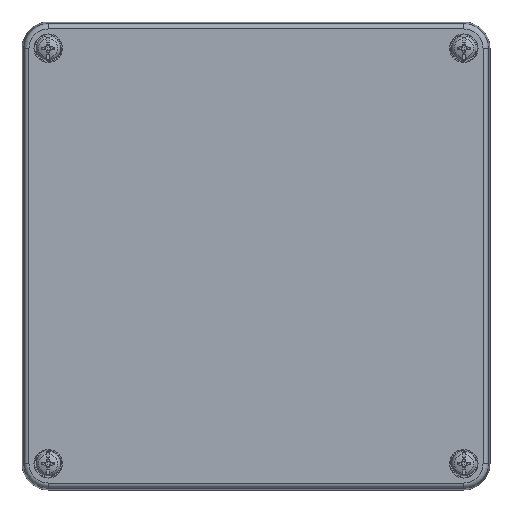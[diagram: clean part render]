
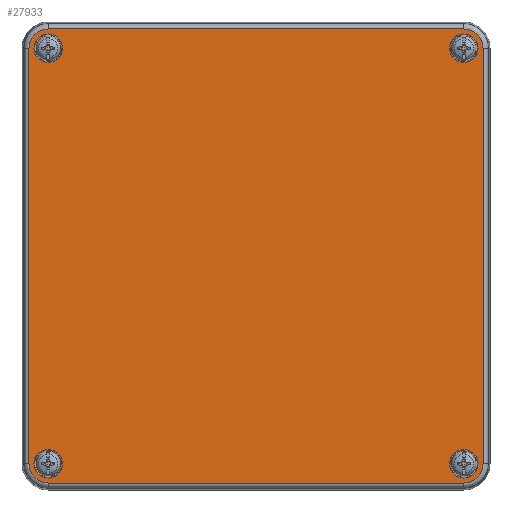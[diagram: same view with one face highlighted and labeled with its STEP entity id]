
A CAD part, front view. The second image highlights one B-rep face of the part: STEP entity #27933.
In plain terms, the highlighted planar face has unit normal (0, -1, 0) as drawn and (0, 0, 1) by its records, which use the part's own axes.
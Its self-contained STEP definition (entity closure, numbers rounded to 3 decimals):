
#1174=FACE_BOUND('',#5631,.T.);
#1175=FACE_BOUND('',#5632,.T.);
#1176=FACE_BOUND('',#5633,.T.);
#1177=FACE_BOUND('',#5634,.T.);
#2244=PLANE('',#30089);
#3898=FACE_OUTER_BOUND('',#5630,.T.);
#5630=EDGE_LOOP('',(#24554,#24555,#24556,#24557,#24558,#24559,#24560,#24561));
#5631=EDGE_LOOP('',(#24562));
#5632=EDGE_LOOP('',(#24563));
#5633=EDGE_LOOP('',(#24564));
#5634=EDGE_LOOP('',(#24565));
#7862=LINE('',#52551,#10312);
#7863=LINE('',#52555,#10313);
#7864=LINE('',#52559,#10314);
#7865=LINE('',#52562,#10315);
#10312=VECTOR('',#35756,1000.);
#10313=VECTOR('',#35759,1000.);
#10314=VECTOR('',#35762,1000.);
#10315=VECTOR('',#35765,1000.);
#11383=CIRCLE('',#30011,5.5);
#11385=CIRCLE('',#30014,5.5);
#11387=CIRCLE('',#30017,5.5);
#11389=CIRCLE('',#30020,5.5);
#11432=CIRCLE('',#30090,7.415);
#11433=CIRCLE('',#30091,7.415);
#11434=CIRCLE('',#30092,7.415);
#11435=CIRCLE('',#30093,7.415);
#13626=VERTEX_POINT('',#52370);
#13628=VERTEX_POINT('',#52376);
#13630=VERTEX_POINT('',#52382);
#13632=VERTEX_POINT('',#52388);
#13689=VERTEX_POINT('',#52547);
#13690=VERTEX_POINT('',#52548);
#13691=VERTEX_POINT('',#52550);
#13692=VERTEX_POINT('',#52552);
#13693=VERTEX_POINT('',#52554);
#13694=VERTEX_POINT('',#52556);
#13695=VERTEX_POINT('',#52558);
#13696=VERTEX_POINT('',#52560);
#17321=EDGE_CURVE('',#13626,#13626,#11383,.T.);
#17324=EDGE_CURVE('',#13628,#13628,#11385,.T.);
#17327=EDGE_CURVE('',#13630,#13630,#11387,.T.);
#17330=EDGE_CURVE('',#13632,#13632,#11389,.T.);
#17404=EDGE_CURVE('',#13689,#13690,#11432,.T.);
#17405=EDGE_CURVE('',#13691,#13689,#7862,.T.);
#17406=EDGE_CURVE('',#13692,#13691,#11433,.T.);
#17407=EDGE_CURVE('',#13693,#13692,#7863,.T.);
#17408=EDGE_CURVE('',#13694,#13693,#11434,.T.);
#17409=EDGE_CURVE('',#13695,#13694,#7864,.T.);
#17410=EDGE_CURVE('',#13696,#13695,#11435,.T.);
#17411=EDGE_CURVE('',#13690,#13696,#7865,.T.);
#24554=ORIENTED_EDGE('',*,*,#17404,.F.);
#24555=ORIENTED_EDGE('',*,*,#17405,.F.);
#24556=ORIENTED_EDGE('',*,*,#17406,.F.);
#24557=ORIENTED_EDGE('',*,*,#17407,.F.);
#24558=ORIENTED_EDGE('',*,*,#17408,.F.);
#24559=ORIENTED_EDGE('',*,*,#17409,.F.);
#24560=ORIENTED_EDGE('',*,*,#17410,.F.);
#24561=ORIENTED_EDGE('',*,*,#17411,.F.);
#24562=ORIENTED_EDGE('',*,*,#17321,.F.);
#24563=ORIENTED_EDGE('',*,*,#17324,.F.);
#24564=ORIENTED_EDGE('',*,*,#17327,.F.);
#24565=ORIENTED_EDGE('',*,*,#17330,.F.);
#27933=ADVANCED_FACE('',(#3898,#1174,#1175,#1176,#1177),#2244,.F.);
#30011=AXIS2_PLACEMENT_3D('',#52372,#35562,#35563);
#30014=AXIS2_PLACEMENT_3D('',#52378,#35569,#35570);
#30017=AXIS2_PLACEMENT_3D('',#52384,#35576,#35577);
#30020=AXIS2_PLACEMENT_3D('',#52390,#35583,#35584);
#30089=AXIS2_PLACEMENT_3D('',#52546,#35752,#35753);
#30090=AXIS2_PLACEMENT_3D('',#52549,#35754,#35755);
#30091=AXIS2_PLACEMENT_3D('',#52553,#35757,#35758);
#30092=AXIS2_PLACEMENT_3D('',#52557,#35760,#35761);
#30093=AXIS2_PLACEMENT_3D('',#52561,#35763,#35764);
#35562=DIRECTION('center_axis',(0.,0.,1.));
#35563=DIRECTION('ref_axis',(1.,0.,0.));
#35569=DIRECTION('center_axis',(0.,0.,1.));
#35570=DIRECTION('ref_axis',(1.,0.,0.));
#35576=DIRECTION('center_axis',(0.,0.,1.));
#35577=DIRECTION('ref_axis',(1.,0.,0.));
#35583=DIRECTION('center_axis',(0.,0.,1.));
#35584=DIRECTION('ref_axis',(1.,0.,0.));
#35752=DIRECTION('center_axis',(0.,0.,-1.));
#35753=DIRECTION('ref_axis',(-1.,0.,0.));
#35754=DIRECTION('center_axis',(0.,0.,-1.));
#35755=DIRECTION('ref_axis',(1.,0.,0.));
#35756=DIRECTION('',(1.,0.,0.));
#35757=DIRECTION('center_axis',(0.,0.,-1.));
#35758=DIRECTION('ref_axis',(0.,1.,0.));
#35759=DIRECTION('',(0.,1.,0.));
#35760=DIRECTION('center_axis',(0.,0.,-1.));
#35761=DIRECTION('ref_axis',(-1.,0.,0.));
#35762=DIRECTION('',(-1.,0.,0.));
#35763=DIRECTION('center_axis',(0.,0.,-1.));
#35764=DIRECTION('ref_axis',(0.,-1.,0.));
#35765=DIRECTION('',(0.,-1.,0.));
#52370=CARTESIAN_POINT('',(74.5,80.,30.));
#52372=CARTESIAN_POINT('Origin',(80.,80.,30.));
#52376=CARTESIAN_POINT('',(-85.5,80.,30.));
#52378=CARTESIAN_POINT('Origin',(-80.,80.,30.));
#52382=CARTESIAN_POINT('',(74.5,-80.,30.));
#52384=CARTESIAN_POINT('Origin',(80.,-80.,30.));
#52388=CARTESIAN_POINT('',(-85.5,-80.,30.));
#52390=CARTESIAN_POINT('Origin',(-80.,-80.,30.));
#52546=CARTESIAN_POINT('Origin',(-80.,-80.,30.));
#52547=CARTESIAN_POINT('',(80.,87.415,30.));
#52548=CARTESIAN_POINT('',(87.415,80.,30.));
#52549=CARTESIAN_POINT('Origin',(80.,80.,30.));
#52550=CARTESIAN_POINT('',(-80.,87.415,30.));
#52551=CARTESIAN_POINT('',(-80.,87.415,30.));
#52552=CARTESIAN_POINT('',(-87.415,80.,30.));
#52553=CARTESIAN_POINT('Origin',(-80.,80.,30.));
#52554=CARTESIAN_POINT('',(-87.415,-80.,30.));
#52555=CARTESIAN_POINT('',(-87.415,-80.,30.));
#52556=CARTESIAN_POINT('',(-80.,-87.415,30.));
#52557=CARTESIAN_POINT('Origin',(-80.,-80.,30.));
#52558=CARTESIAN_POINT('',(80.,-87.415,30.));
#52559=CARTESIAN_POINT('',(-80.,-87.415,30.));
#52560=CARTESIAN_POINT('',(87.415,-80.,30.));
#52561=CARTESIAN_POINT('Origin',(80.,-80.,30.));
#52562=CARTESIAN_POINT('',(87.415,-80.,30.));
